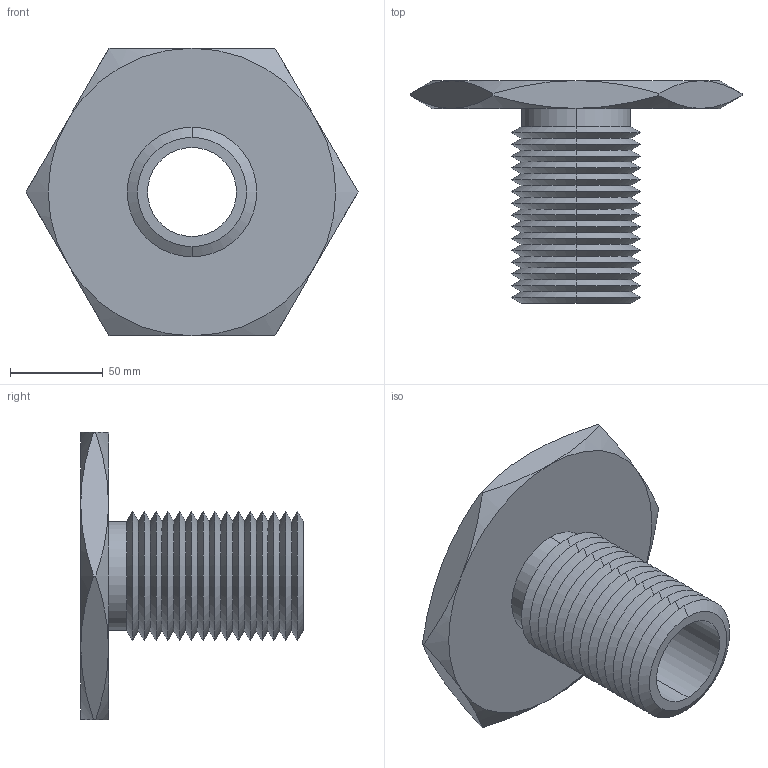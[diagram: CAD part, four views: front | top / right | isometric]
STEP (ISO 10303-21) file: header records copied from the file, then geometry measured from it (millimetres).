
FILE_DESCRIPTION (( 'STEP AP203' ), '1' );
FILE_NAME ('63302.W5275_M48x5.step', '2013-12-08T11:54:10', ( 'User' ), ( '' ), 'SwSTEP 2.0', 'SolidWorks 2009', '' );
FILE_SCHEMA (( 'CONFIG_CONTROL_DESIGN' ));
Length unit declared in the file: millimetre
Products named in the file (1): 63302.W5275_M48x5
Bounding box: 178.98 x 120 x 155 mm (x, y, z)
Volume: 421909.8 mm3; surface area: 102098.4 mm2
Topology: 1 solids, 1 shells, 87 faces, 178 edges, 94 vertices
Faces by surface type: cone 74, plane 9, cylinder 4
Entity records: 2479 total; most frequent: CARTESIAN_POINT 584, DIRECTION 412, ORIENTED_EDGE 356, EDGE_CURVE 178, AXIS2_PLACEMENT_3D 170, VERTEX_POINT 94, EDGE_LOOP 90, ADVANCED_FACE 87
